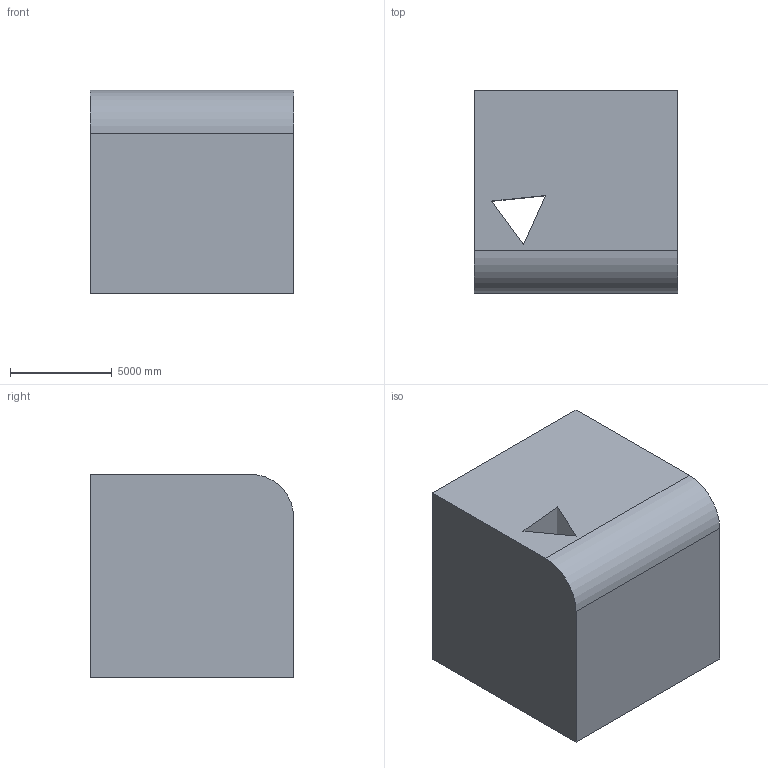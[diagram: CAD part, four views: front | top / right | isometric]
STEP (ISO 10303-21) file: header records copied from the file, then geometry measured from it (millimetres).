
FILE_DESCRIPTION (( 'STEP AP203' ), '1' );
FILE_NAME ('1072.STEP', '2022-08-18T12:39:04', ( 'user' ), ( '' ), 'SwSTEP 2.0', 'SolidWorks 2021', '' );
FILE_SCHEMA (( 'CONFIG_CONTROL_DESIGN' ));
Length unit declared in the file: centimetre
Products named in the file (1): 1072
Bounding box: 10000 x 10000 x 10000 mm (x, y, z)
Volume: 959598381608.2 mm3; surface area: 662628769.8 mm2
Topology: 1 solids, 1 shells, 10 faces, 24 edges, 16 vertices
Faces by surface type: plane 9, cylinder 1
Entity records: 371 total; most frequent: CARTESIAN_POINT 51, DIRECTION 48, ORIENTED_EDGE 48, EDGE_CURVE 24, LINE 22, VECTOR 22, VERTEX_POINT 16, AXIS2_PLACEMENT_3D 13
